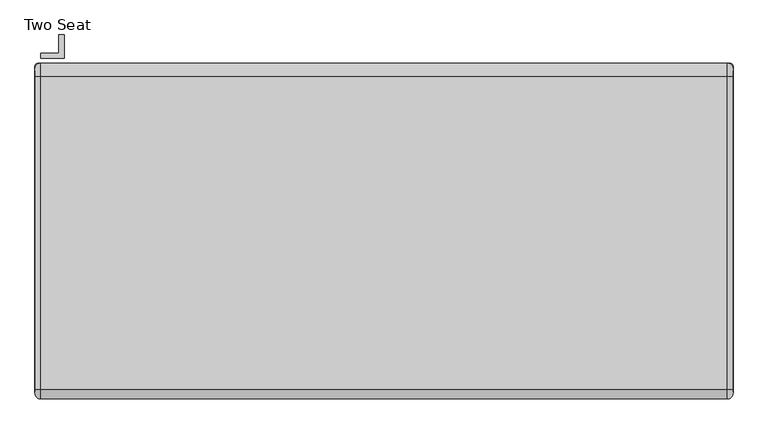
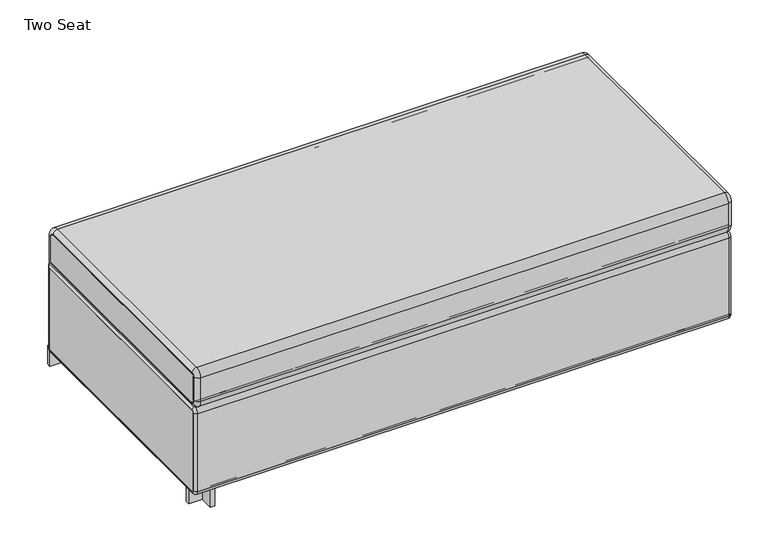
"""IFC4 building model written with IfcOpenShell, lengths in millimetres: furniture geometry, Steelcase Coalesse - Evaneau - Seating - Sofa : Two Seat."""

from ifc_helpers import new_model, si_unit, point, frame, frame_2d, origin, origin_with_axes, place, context, project, spatial, polyline, circle_curve, ellipse_curve, trimmed, segment, composite_curve, outline, extrude, source, transform, mapped, element, save
from ifc_brep_helpers import plane_surface, cylinder_surface, revolved_surface, advanced_brep


def two_seat_8f21ff1d(model_context):
    return source(origin(), model_context, "Body", "SolidModel", [
        extrude(outline(polyline([(-1364.2726275, 960.681058), (-1415.413692, 960.681058), (-1415.413692, 972.4828812), (-1376.0742328, 972.4828812), (-1376.0742328, 1012.1709384), (-1364.2726275, 1012.1709384), (-1364.2726275, 960.681058)])), origin_with_axes(), (0.0, 0.0, 1.0), 56.333748),
        extrude(outline(polyline([(-1364.2726275, 288.1862243), (-1364.2726275, 236.6963439), (-1376.0742328, 236.6963439), (-1376.0742328, 276.3844011), (-1415.413692, 276.3844011), (-1415.413692, 288.1862243), (-1364.2726275, 288.1862243)])), origin_with_axes(), (0.0, 0.0, 1.0), 56.333748),
        advanced_brep(
        [(93.002078, 221.439472, 71.8912426), (93.002078, 235.3471838, 57.9835308), (100.622078, 235.3471838, 65.6035308), (100.622078, 229.059472, 71.8912426), (-1420.8056675, 221.439472, 71.8912426), (-1420.8056675, 235.3471838, 57.9835308), (-1428.457922, 229.0917265, 71.8912426), (-1428.457922, 235.3471838, 65.6357853), (100.622078, 230.2671838, 71.8912426), (100.622078, 235.3471838, 66.8112426), (-1428.457922, 235.3471838, 66.8112426), (-1428.457922, 230.2671838, 71.8912426), (100.622078, 229.059472, 306.7299722), (93.002078, 221.439472, 306.7299722), (-1420.8056675, 221.439472, 306.7299722), (-1428.457922, 229.0917265, 306.7299722), (-1428.457922, 230.2671838, 306.7299722), (100.622078, 230.2671838, 306.7299722), (93.002078, 235.3471838, 320.637684), (100.622078, 235.3471838, 313.017684), (-1420.8056675, 235.3471838, 320.637684), (-1428.457922, 235.3471838, 312.9854295), (100.622078, 235.3471838, 311.8099722), (-1428.457922, 235.3471838, 311.8099722), (100.622078, 942.4384655, 313.017684), (100.622078, 936.1507537, 65.6035308), (100.622078, 942.4384655, 71.8912426), (100.622078, 941.2307537, 311.8099722), (100.622078, 941.2307537, 71.8912426), (100.622078, 936.1507537, 66.8112426), (93.002078, 950.0584655, 320.637684), (-1420.8056675, 950.0584655, 320.637684), (-1428.457922, 942.406211, 312.9854295), (-1428.457922, 942.406211, 71.8912426), (-1428.457922, 936.1507537, 65.6357853), (-1428.457922, 941.2307537, 311.8099722), (-1428.457922, 936.1507537, 66.8112426), (-1428.457922, 941.2307537, 71.8912426), (93.002078, 950.0584655, 71.8912426), (-1420.8056675, 950.0584655, 71.8912426), (93.002078, 936.1507537, 57.9835308), (-1420.8056675, 936.1507537, 57.9835308)],
        [
            (0, 1, circle_curve(frame((93.002078, 235.3471838, 71.8912426), z_axis=(1.0, 0.0, 0.0), x_axis=(0.0, 0.0, -1.0)), 13.9077117)),
            (1, 2, circle_curve(frame((93.002078, 235.3471838, 65.6035308), z_axis=(0.0, -1.0, 0.0), x_axis=(0.0, 0.0, 1.0)), 7.62)),
            (2, 3, circle_curve(frame((100.622078, 235.3471838, 71.8912426), z_axis=(-1.0, 0.0, 0.0), x_axis=(0.0, 0.0, -1.0)), 6.2877117)),
            (3, 0, circle_curve(frame((93.002078, 229.059472, 71.8912426), z_axis=(0.0, 0.0, -1.0), x_axis=(0.0, 1.0, 0.0)), 7.62)),
            (4, 5, circle_curve(frame((-1420.8056675, 235.3471838, 71.8912426), z_axis=(1.0, 0.0, 0.0), x_axis=(0.0, 0.0, -1.0)), 13.9077117)),
            (5, 1),
            (0, 4),
            (6, 7, circle_curve(frame((-1428.457922, 235.3471838, 71.8912426), z_axis=(1.0, 0.0, 0.0), x_axis=(0.0, 0.0, -1.0)), 6.2554573)),
            (7, 5, circle_curve(frame((-1420.8056675, 235.3471838, 65.6357853), z_axis=(0.0, -1.0, 0.0), x_axis=(0.0, 0.0, 1.0)), 7.6522545)),
            (4, 6, circle_curve(frame((-1420.8056675, 229.0917265, 71.8912426), z_axis=(0.0, 0.0, -1.0), x_axis=(0.0, 1.0, 0.0)), 7.6522545)),
            (8, 9, circle_curve(frame((100.622078, 235.3471838, 71.8912426), z_axis=(1.0, 0.0, 0.0), x_axis=(0.0, 0.0, -1.0)), 5.08)),
            (9, 10),
            (10, 11, circle_curve(frame((-1428.457922, 235.3471838, 71.8912426), z_axis=(-1.0, 0.0, 0.0), x_axis=(0.0, 0.0, -1.0)), 5.08)),
            (11, 8),
            (3, 12),
            (12, 13, circle_curve(frame((93.002078, 229.059472, 306.7299722), z_axis=(0.0, 0.0, -1.0), x_axis=(0.0, 1.0, 0.0)), 7.62)),
            (13, 0),
            (13, 14),
            (14, 4),
            (14, 15, circle_curve(frame((-1420.8056675, 229.0917265, 306.7299722), z_axis=(0.0, 0.0, -1.0), x_axis=(0.0, 1.0, 0.0)), 7.6522545)),
            (15, 6),
            (11, 16),
            (16, 17),
            (17, 8),
            (18, 13, circle_curve(frame((93.002078, 235.3471838, 306.7299722), z_axis=(1.0, 0.0, 0.0), x_axis=(0.0, -1.0, 0.0)), 13.9077117)),
            (12, 19, circle_curve(frame((100.622078, 235.3471838, 306.7299722), z_axis=(-1.0, 0.0, 0.0), x_axis=(0.0, -1.0, 0.0)), 6.2877117)),
            (19, 18, circle_curve(frame((93.002078, 235.3471838, 313.017684), z_axis=(0.0, -1.0, 0.0), x_axis=(0.0, 0.0, -1.0)), 7.62)),
            (20, 14, circle_curve(frame((-1420.8056675, 235.3471838, 306.7299722), z_axis=(1.0, 0.0, 0.0), x_axis=(0.0, -1.0, 0.0)), 13.9077117)),
            (18, 20),
            (21, 15, circle_curve(frame((-1428.457922, 235.3471838, 306.7299722), z_axis=(1.0, 0.0, 0.0), x_axis=(0.0, -1.0, 0.0)), 6.2554573)),
            (20, 21, circle_curve(frame((-1420.8056675, 235.3471838, 312.9854295), z_axis=(0.0, -1.0, 0.0), x_axis=(0.0, 0.0, -1.0)), 7.6522545)),
            (22, 17, circle_curve(frame((100.622078, 235.3471838, 306.7299722), z_axis=(1.0, 0.0, 0.0), x_axis=(0.0, -1.0, 0.0)), 5.08)),
            (16, 23, circle_curve(frame((-1428.457922, 235.3471838, 306.7299722), z_axis=(-1.0, 0.0, 0.0), x_axis=(0.0, -1.0, 0.0)), 5.08)),
            (23, 22),
            (24, 19),
            (2, 25),
            (25, 26, circle_curve(frame((100.622078, 936.1507537, 71.8912426), z_axis=(1.0, 0.0, 0.0), x_axis=(0.0, 1.0, 0.0)), 6.2877117)),
            (26, 24),
            (22, 27),
            (27, 28),
            (28, 29, circle_curve(frame((100.622078, 936.1507537, 71.8912426), z_axis=(-1.0, 0.0, 0.0), x_axis=(0.0, 1.0, 0.0)), 5.08)),
            (29, 9),
            (24, 30, ellipse_curve(frame((93.002078, 942.4384655, 313.017684), z_axis=(0.0, -0.7071067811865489, 0.707106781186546), x_axis=(0.0, -0.7071067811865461, -0.7071067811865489)), 10.7763073, 7.62)),
            (30, 18),
            (30, 31),
            (31, 20),
            (31, 32, ellipse_curve(frame((-1420.8056675, 942.406211, 312.9854295), z_axis=(0.0, -0.7071067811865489, 0.707106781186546), x_axis=(0.0, -0.7071067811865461, -0.7071067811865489)), 10.8219221, 7.6522545)),
            (32, 21),
            (32, 33),
            (33, 34, circle_curve(frame((-1428.457922, 936.1507537, 71.8912426), z_axis=(-1.0, 0.0, 0.0), x_axis=(0.0, 1.0, 0.0)), 6.2554573)),
            (34, 7),
            (35, 23),
            (10, 36),
            (36, 37, circle_curve(frame((-1428.457922, 936.1507537, 71.8912426), z_axis=(1.0, 0.0, 0.0), x_axis=(0.0, 1.0, 0.0)), 5.08)),
            (37, 35),
            (35, 27),
            (26, 38, circle_curve(frame((93.002078, 942.4384655, 71.8912426), z_axis=(0.0, 0.0, 1.0), x_axis=(0.0, -1.0, 0.0)), 7.62)),
            (38, 30),
            (38, 39),
            (39, 31),
            (39, 33, circle_curve(frame((-1420.8056675, 942.406211, 71.8912426), z_axis=(0.0, 0.0, 1.0), x_axis=(0.0, -1.0, 0.0)), 7.6522545)),
            (37, 28),
            (40, 38, circle_curve(frame((93.002078, 936.1507537, 71.8912426), z_axis=(1.0, 0.0, 0.0), x_axis=(0.0, 1.0, 0.0)), 13.9077117)),
            (25, 40, circle_curve(frame((93.002078, 936.1507537, 65.6035308), z_axis=(0.0, 1.0, 0.0), x_axis=(0.0, 0.0, 1.0)), 7.62)),
            (41, 39, circle_curve(frame((-1420.8056675, 936.1507537, 71.8912426), z_axis=(1.0, 0.0, 0.0), x_axis=(0.0, 1.0, 0.0)), 13.9077117)),
            (40, 41),
            (41, 34, circle_curve(frame((-1420.8056675, 936.1507537, 65.6357853), z_axis=(0.0, 1.0, 0.0), x_axis=(0.0, 0.0, 1.0)), 7.6522545)),
            (36, 29),
            (1, 40),
            (5, 41),
        ],
        [
            revolved_surface(trimmed(ellipse_curve(frame((93.002078, 235.3471838, 65.6035308), z_axis=(0.0, 1.0, 0.0), x_axis=(0.0, 0.0, 1.0)), 7.62, 7.62), [point((100.622078, 235.3471838, 65.6035308))], [point((93.002078, 235.3471838, 57.9835308))], True, "CARTESIAN"), (-663.917922, 235.3471838, 71.8912426), (-1.0, 0.0, 0.0)),
            cylinder_surface(frame((-663.917922, 235.3471838, 71.8912426), z_axis=(-1.0, 0.0, 0.0), x_axis=(0.0, 0.0, -1.0)), 13.9077117),
            revolved_surface(trimmed(ellipse_curve(frame((-1420.8056675, 235.3471838, 65.6357853), z_axis=(0.0, 1.0, 0.0), x_axis=(0.0, 0.0, 1.0)), 7.6522545, 7.6522545), [point((-1420.8056675, 235.3471838, 57.9835308))], [point((-1428.457922, 235.3471838, 65.6357853))], True, "CARTESIAN"), (-663.917922, 235.3471838, 71.8912426), (-1.0, 0.0, 0.0)),
            revolved_surface(polyline([(-1428.457922, 235.3471838, 66.8112426), (100.62207799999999, 235.3471838, 66.8112426)]), (-663.917922, 235.3471838, 71.8912426), (-1.0, 0.0, 0.0)),
            cylinder_surface(frame((93.002078, 229.059472, 71.8912426), z_axis=(0.0, 0.0, -1.0), x_axis=(0.0, 1.0, 0.0)), 7.62),
            plane_surface(frame((93.002078, 221.439472, 71.8912426), z_axis=(0.0, -1.0, 0.0), x_axis=(0.0, 0.0, 1.0))),
            cylinder_surface(frame((-1420.8056675, 229.0917265, 71.8912426), z_axis=(0.0, 0.0, -1.0), x_axis=(0.0, 1.0, 0.0)), 7.6522545),
            plane_surface(frame((-1428.457922, 230.2671838, 71.8912426), z_axis=(0.0, 1.0, 0.0), x_axis=(0.0, 0.0, 1.0))),
            revolved_surface(trimmed(ellipse_curve(frame((93.002078, 229.059472, 306.7299722), z_axis=(0.0, 0.0, -1.0), x_axis=(0.0, 1.0, 0.0)), 7.62, 7.62), [point((100.622078, 229.059472, 306.7299722))], [point((93.002078, 221.439472, 306.7299722))], True, "CARTESIAN"), (-663.917922, 235.3471838, 306.7299722), (-1.0, 0.0, 0.0)),
            cylinder_surface(frame((-663.917922, 235.3471838, 306.7299722), z_axis=(-1.0, 0.0, 0.0), x_axis=(0.0, -1.0, 0.0)), 13.9077117),
            revolved_surface(trimmed(ellipse_curve(frame((-1420.8056675, 229.0917265, 306.7299722), z_axis=(0.0, 0.0, -1.0), x_axis=(0.0, 1.0, 0.0)), 7.6522545, 7.6522545), [point((-1420.8056675, 221.439472, 306.7299722))], [point((-1428.457922, 229.0917265, 306.7299722))], True, "CARTESIAN"), (-663.917922, 235.3471838, 306.7299722), (-1.0, 0.0, 0.0)),
            revolved_surface(polyline([(-1428.457922, 230.2671838, 306.7299722), (100.62207799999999, 230.2671838, 306.7299722)]), (-663.917922, 235.3471838, 306.7299722), (-1.0, 0.0, 0.0)),
            plane_surface(frame((100.622078, 235.3471838, 311.8099722), z_axis=(1.0, 0.0, 0.0), x_axis=(0.0, 1.0, 0.0))),
            cylinder_surface(frame((93.002078, 235.3471838, 313.017684), z_axis=(0.0, -1.0, 0.0), x_axis=(0.0, 0.0, -1.0)), 7.62),
            plane_surface(frame((93.002078, 235.3471838, 320.637684), z_axis=(0.0, 0.0, 1.0), x_axis=(0.0, 1.0, 0.0))),
            cylinder_surface(frame((-1420.8056675, 235.3471838, 312.9854295), z_axis=(0.0, -1.0, 0.0), x_axis=(0.0, 0.0, -1.0)), 7.6522545),
            plane_surface(frame((-1428.457922, 235.3471838, 312.9854295), z_axis=(-1.0, 0.0, 0.0), x_axis=(0.0, 1.0, 0.0))),
            plane_surface(frame((-1428.457922, 235.3471838, 311.8099722), z_axis=(0.0, 0.0, -1.0), x_axis=(0.0, 1.0, 0.0))),
            cylinder_surface(frame((93.002078, 942.4384655, 311.8099722), z_axis=(0.0, 0.0, 1.0), x_axis=(0.0, -1.0, 0.0)), 7.62),
            plane_surface(frame((93.002078, 950.0584655, 320.637684), z_axis=(0.0, 1.0, 0.0), x_axis=(0.0, 0.0, -1.0))),
            cylinder_surface(frame((-1420.8056675, 942.406211, 311.8099722), z_axis=(0.0, 0.0, 1.0), x_axis=(0.0, -1.0, 0.0)), 7.6522545),
            plane_surface(frame((-1428.457922, 941.2307537, 311.8099722), z_axis=(0.0, -1.0, 0.0), x_axis=(0.0, 0.0, -1.0))),
            revolved_surface(trimmed(ellipse_curve(frame((93.002078, 942.4384655, 71.8912426), z_axis=(0.0, 0.0, 1.0), x_axis=(0.0, -1.0, 0.0)), 7.62, 7.62), [point((100.622078, 942.4384655, 71.8912426))], [point((93.002078, 950.0584655, 71.8912426))], True, "CARTESIAN"), (-663.917922, 936.1507537, 71.8912426), (-1.0, 0.0, 0.0)),
            cylinder_surface(frame((-663.917922, 936.1507537, 71.8912426), z_axis=(-1.0, 0.0, 0.0), x_axis=(0.0, 1.0, 0.0)), 13.9077117),
            revolved_surface(trimmed(ellipse_curve(frame((-1420.8056675, 942.406211, 71.8912426), z_axis=(0.0, 0.0, 1.0), x_axis=(0.0, -1.0, 0.0)), 7.6522545, 7.6522545), [point((-1420.8056675, 950.0584655, 71.8912426))], [point((-1428.457922, 942.406211, 71.8912426))], True, "CARTESIAN"), (-663.917922, 936.1507537, 71.8912426), (-1.0, 0.0, 0.0)),
            revolved_surface(polyline([(-1428.457922, 941.2307537, 71.8912426), (100.62207799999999, 941.2307537, 71.8912426)]), (-663.917922, 936.1507537, 71.8912426), (-1.0, 0.0, 0.0)),
            cylinder_surface(frame((93.002078, 936.1507537, 65.6035308), z_axis=(0.0, 1.0, 0.0), x_axis=(0.0, 0.0, 1.0)), 7.62),
            plane_surface(frame((93.002078, 936.1507537, 57.9835308), z_axis=(0.0, 0.0, -1.0), x_axis=(0.0, -1.0, 0.0))),
            cylinder_surface(frame((-1420.8056675, 936.1507537, 65.6357853), z_axis=(0.0, 1.0, 0.0), x_axis=(0.0, 0.0, 1.0)), 7.6522545),
            plane_surface(frame((-1428.457922, 936.1507537, 66.8112426), z_axis=(0.0, 0.0, 1.0), x_axis=(0.0, -1.0, 0.0))),
        ],
        [
            (0, [[1, 2, 3, 4]]),
            (1, [[5, 6, -1, 7]]),
            (2, [[8, 9, -5, 10]]),
            (3, [[11, 12, 13, 14]]),
            (4, [[-4, 15, 16, 17]]),
            (5, [[-7, -17, 18, 19]]),
            (6, [[-10, -19, 20, 21]]),
            (7, [[-14, 22, 23, 24]]),
            (8, [[25, -16, 26, 27]]),
            (9, [[28, -18, -25, 29]]),
            (10, [[30, -20, -28, 31]]),
            (11, [[32, -23, 33, 34]]),
            (12, [[35, -26, -15, -3, 36, 37, 38], [-24, -32, 39, 40, 41, 42, -11]]),
            (13, [[-27, -35, 43, 44]]),
            (14, [[-29, -44, 45, 46]]),
            (15, [[-31, -46, 47, 48]]),
            (16, [[-21, -30, -48, 49, 50, 51, -8], [52, -33, -22, -13, 53, 54, 55]]),
            (17, [[-34, -52, 56, -39]]),
            (18, [[-43, -38, 57, 58]]),
            (19, [[-45, -58, 59, 60]]),
            (20, [[-47, -60, 61, -49]]),
            (21, [[-56, -55, 62, -40]]),
            (22, [[63, -57, -37, 64]]),
            (23, [[65, -59, -63, 66]]),
            (24, [[-50, -61, -65, 67]]),
            (25, [[-41, -62, -54, 68]]),
            (26, [[-64, -36, -2, 69]]),
            (27, [[-66, -69, -6, 70]]),
            (28, [[-67, -70, -9, -51]]),
            (29, [[-68, -53, -12, -42]]),
        ],
    ),
        advanced_brep(
        [(100.622078, 934.8184437, 409.1587342), (100.622078, 922.1184437, 421.8587342), (-1428.457922, 922.1184437, 421.8587342), (-1428.457922, 934.8184437, 409.1587342), (87.922078, 950.0584655, 409.1587342), (87.922078, 922.1184437, 437.098756), (100.622078, 922.1184437, 424.398756), (100.622078, 937.3584655, 409.1587342), (-1415.757922, 950.0584655, 409.1587342), (-1415.757922, 922.1184437, 437.098756), (-1428.457922, 937.3584655, 409.1587342), (-1428.457922, 922.1184437, 424.398756), (-1428.457922, 934.8184437, 333.337684), (100.622078, 934.8184437, 333.337684), (100.622078, 937.3584655, 330.7976622), (87.922078, 950.0584655, 318.0976622), (-1415.757922, 950.0584655, 318.0976622), (-1428.457922, 937.3584655, 330.7976622), (-1428.457922, 242.9671838, 330.7976622), (-1428.457922, 232.8871832, 334.6073799), (-1428.457922, 227.727162, 346.037684), (-1428.457922, 227.727162, 416.7787342), (-1428.457922, 235.3471838, 424.398756), (-1428.457922, 242.9671838, 333.337684), (-1428.457922, 235.3471838, 421.8587342), (-1428.457922, 230.2671838, 416.7787342), (-1428.457922, 230.2671838, 346.037684), (-1428.457922, 234.5671953, 336.5124442), (100.622078, 242.9671838, 333.337684), (100.622078, 242.9671838, 330.7976622), (100.622078, 235.3471838, 424.398756), (100.622078, 227.727162, 416.7787342), (100.622078, 227.727162, 346.037684), (100.622078, 232.8871832, 334.6073799), (100.622078, 234.5671953, 336.5124442), (100.622078, 230.2671838, 346.037684), (100.622078, 230.2671838, 416.7787342), (100.622078, 235.3471838, 421.8587342), (87.922078, 242.9671838, 318.0976622), (-1415.757922, 242.9671838, 318.0976622), (87.922078, 224.4871947, 325.0821401), (-1415.757922, 224.4871947, 325.0821401), (87.922078, 215.027162, 346.037684), (-1415.757922, 215.027162, 346.037684), (87.922078, 215.027162, 416.7787342), (-1415.757922, 215.027162, 416.7787342), (87.922078, 235.3471838, 437.098756), (-1415.757922, 235.3471838, 437.098756)],
        [
            (0, 1, circle_curve(frame((100.622078, 922.1184437, 409.1587342), z_axis=(1.0, 0.0, 0.0), x_axis=(0.0, 0.0, 1.0)), 12.7)),
            (1, 2),
            (2, 3, circle_curve(frame((-1428.457922, 922.1184437, 409.1587342), z_axis=(-1.0, 0.0, 0.0), x_axis=(0.0, 0.0, 1.0)), 12.7)),
            (3, 0),
            (4, 5, circle_curve(frame((87.922078, 922.1184437, 409.1587342), z_axis=(1.0, 0.0, 0.0), x_axis=(0.0, 0.0, 1.0)), 27.9400218)),
            (5, 6, circle_curve(frame((87.922078, 922.1184437, 424.398756), z_axis=(0.0, 1.0, 0.0), x_axis=(0.0, 0.0, -1.0)), 12.7)),
            (6, 7, circle_curve(frame((100.622078, 922.1184437, 409.1587342), z_axis=(-1.0, 0.0, 0.0), x_axis=(0.0, 0.0, 1.0)), 15.2400218)),
            (7, 4, circle_curve(frame((87.922078, 937.3584655, 409.1587342), z_axis=(0.0, 0.0, 1.0), x_axis=(0.0, -1.0, 0.0)), 12.7)),
            (8, 9, circle_curve(frame((-1415.757922, 922.1184437, 409.1587342), z_axis=(1.0, 0.0, 0.0), x_axis=(0.0, 0.0, 1.0)), 27.9400218)),
            (9, 5),
            (4, 8),
            (10, 11, circle_curve(frame((-1428.457922, 922.1184437, 409.1587342), z_axis=(1.0, 0.0, 0.0), x_axis=(0.0, 0.0, 1.0)), 15.2400218)),
            (11, 9, circle_curve(frame((-1415.757922, 922.1184437, 424.398756), z_axis=(0.0, 1.0, 0.0), x_axis=(0.0, 0.0, -1.0)), 12.7)),
            (8, 10, circle_curve(frame((-1415.757922, 937.3584655, 409.1587342), z_axis=(0.0, 0.0, 1.0), x_axis=(0.0, -1.0, 0.0)), 12.7)),
            (3, 12),
            (12, 13),
            (13, 0),
            (7, 14),
            (14, 15, ellipse_curve(frame((87.922078, 937.3584655, 330.7976622), z_axis=(0.0, 0.7071067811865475, 0.7071067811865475), x_axis=(0.0, -0.7071067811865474, 0.7071067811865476)), 17.9605122, 12.7)),
            (15, 4),
            (15, 16),
            (16, 8),
            (16, 17, ellipse_curve(frame((-1415.757922, 937.3584655, 330.7976622), z_axis=(0.0, 0.7071067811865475, 0.7071067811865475), x_axis=(0.0, -0.7071067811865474, 0.7071067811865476)), 17.9605122, 12.7)),
            (17, 10),
            (17, 18),
            (18, 19, circle_curve(frame((-1428.457922, 242.9671838, 346.037684), z_axis=(-1.0, 0.0, 0.0), x_axis=(0.0, 0.0, -1.0)), 15.2400218)),
            (19, 20, circle_curve(frame((-1428.457922, 242.9671838, 346.037684), z_axis=(-1.0, 0.0, 0.0), x_axis=(0.0, -0.6614164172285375, -0.7500188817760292)), 15.2400218)),
            (20, 21),
            (21, 22, circle_curve(frame((-1428.457922, 235.3471838, 416.7787342), z_axis=(-1.0, 0.0, 0.0), x_axis=(0.0, -1.0, 0.0)), 7.6200218)),
            (22, 11),
            (23, 12),
            (2, 24),
            (24, 25, circle_curve(frame((-1428.457922, 235.3471838, 416.7787342), z_axis=(1.0, 0.0, 0.0), x_axis=(0.0, -1.0, 0.0)), 5.08)),
            (25, 26),
            (26, 27, circle_curve(frame((-1428.457922, 242.9671838, 346.037684), z_axis=(1.0, 0.0, 0.0), x_axis=(0.0, -0.6614164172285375, -0.7500188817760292)), 12.7)),
            (27, 23, circle_curve(frame((-1428.457922, 242.9671838, 346.037684), z_axis=(1.0, 0.0, 0.0), x_axis=(0.0, 0.0, -1.0)), 12.7)),
            (23, 28),
            (28, 13),
            (29, 14),
            (6, 30),
            (30, 31, circle_curve(frame((100.622078, 235.3471838, 416.7787342), z_axis=(1.0, 0.0, 0.0), x_axis=(0.0, -1.0, 0.0)), 7.6200218)),
            (31, 32),
            (32, 33, circle_curve(frame((100.622078, 242.9671838, 346.037684), z_axis=(1.0, 0.0, 0.0), x_axis=(0.0, -0.6614164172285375, -0.7500188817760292)), 15.2400218)),
            (33, 29, circle_curve(frame((100.622078, 242.9671838, 346.037684), z_axis=(1.0, 0.0, 0.0), x_axis=(0.0, 0.0, -1.0)), 15.2400218)),
            (28, 34, circle_curve(frame((100.622078, 242.9671838, 346.037684), z_axis=(-1.0, 0.0, 0.0), x_axis=(0.0, 0.0, -1.0)), 12.7)),
            (34, 35, circle_curve(frame((100.622078, 242.9671838, 346.037684), z_axis=(-1.0, 0.0, 0.0), x_axis=(0.0, -0.6614164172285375, -0.7500188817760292)), 12.7)),
            (35, 36),
            (36, 37, circle_curve(frame((100.622078, 235.3471838, 416.7787342), z_axis=(-1.0, 0.0, 0.0), x_axis=(0.0, -1.0, 0.0)), 5.08)),
            (37, 1),
            (29, 38, circle_curve(frame((87.922078, 242.9671838, 330.7976622), z_axis=(0.0, 1.0, 0.0), x_axis=(0.0, 0.0, 1.0)), 12.7)),
            (38, 15),
            (38, 39),
            (39, 16),
            (39, 18, circle_curve(frame((-1415.757922, 242.9671838, 330.7976622), z_axis=(0.0, 1.0, 0.0), x_axis=(0.0, 0.0, 1.0)), 12.7)),
            (27, 34),
            (40, 38, circle_curve(frame((87.922078, 242.9671838, 346.037684), z_axis=(1.0, 0.0, 0.0), x_axis=(0.0, 0.0, -1.0)), 27.9400218)),
            (33, 40, circle_curve(frame((87.922078, 232.8871832, 334.6073799), z_axis=(0.0, 0.7500188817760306, -0.6614164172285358), x_axis=(0.0, 0.6614164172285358, 0.7500188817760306)), 12.7)),
            (41, 39, circle_curve(frame((-1415.757922, 242.9671838, 346.037684), z_axis=(1.0, 0.0, 0.0), x_axis=(0.0, 0.0, -1.0)), 27.9400218)),
            (40, 41),
            (41, 19, circle_curve(frame((-1415.757922, 232.8871832, 334.6073799), z_axis=(0.0, 0.7500188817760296, -0.6614164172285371), x_axis=(0.0, 0.6614164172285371, 0.7500188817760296)), 12.7)),
            (26, 35),
            (42, 40, circle_curve(frame((87.922078, 242.9671838, 346.037684), z_axis=(1.0, 0.0, 0.0), x_axis=(0.0, -0.6614164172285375, -0.7500188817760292)), 27.9400218)),
            (32, 42, circle_curve(frame((87.922078, 227.727162, 346.037684), z_axis=(0.0, 0.0, -1.0), x_axis=(0.0, 1.0, 0.0)), 12.7)),
            (43, 41, circle_curve(frame((-1415.757922, 242.9671838, 346.037684), z_axis=(1.0, 0.0, 0.0), x_axis=(0.0, -0.6614164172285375, -0.7500188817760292)), 27.9400218)),
            (42, 43),
            (43, 20, circle_curve(frame((-1415.757922, 227.727162, 346.037684), z_axis=(0.0, 0.0, -1.0), x_axis=(0.0, 1.0, 0.0)), 12.7)),
            (25, 36),
            (31, 44, circle_curve(frame((87.922078, 227.727162, 416.7787342), z_axis=(0.0, 0.0, -1.0), x_axis=(0.0, 1.0, 0.0)), 12.7)),
            (44, 42),
            (44, 45),
            (45, 43),
            (45, 21, circle_curve(frame((-1415.757922, 227.727162, 416.7787342), z_axis=(0.0, 0.0, -1.0), x_axis=(0.0, 1.0, 0.0)), 12.7)),
            (24, 37),
            (46, 44, circle_curve(frame((87.922078, 235.3471838, 416.7787342), z_axis=(1.0, 0.0, 0.0), x_axis=(0.0, -1.0, 0.0)), 20.3200218)),
            (30, 46, circle_curve(frame((87.922078, 235.3471838, 424.398756), z_axis=(0.0, -1.0, 0.0), x_axis=(0.0, 0.0, -1.0)), 12.7)),
            (47, 45, circle_curve(frame((-1415.757922, 235.3471838, 416.7787342), z_axis=(1.0, 0.0, 0.0), x_axis=(0.0, -1.0, 0.0)), 20.3200218)),
            (46, 47),
            (47, 22, circle_curve(frame((-1415.757922, 235.3471838, 424.398756), z_axis=(0.0, -1.0, 0.0), x_axis=(0.0, 0.0, -1.0)), 12.7)),
            (5, 46),
            (9, 47),
        ],
        [
            revolved_surface(polyline([(-1428.457922, 922.1184437, 421.8587342), (100.62207799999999, 922.1184437, 421.8587342)]), (-663.917922, 922.1184437, 409.1587342), (-1.0, 0.0, 0.0)),
            revolved_surface(trimmed(ellipse_curve(frame((87.922078, 922.1184437, 424.398756), z_axis=(0.0, -1.0, 0.0), x_axis=(0.0, 0.0, -1.0)), 12.7, 12.7), [point((100.622078, 922.1184437, 424.398756))], [point((87.922078, 922.1184437, 437.098756))], True, "CARTESIAN"), (-663.917922, 922.1184437, 409.1587342), (-1.0, 0.0, 0.0)),
            cylinder_surface(frame((-663.917922, 922.1184437, 409.1587342), z_axis=(-1.0, 0.0, 0.0), x_axis=(0.0, 0.0, 1.0)), 27.9400218),
            revolved_surface(trimmed(ellipse_curve(frame((-1415.757922, 922.1184437, 424.398756), z_axis=(0.0, -1.0, 0.0), x_axis=(0.0, 0.0, -1.0)), 12.7, 12.7), [point((-1415.757922, 922.1184437, 437.098756))], [point((-1428.457922, 922.1184437, 424.398756))], True, "CARTESIAN"), (-663.917922, 922.1184437, 409.1587342), (-1.0, 0.0, 0.0)),
            plane_surface(frame((-1428.457922, 934.8184437, 409.1587342), z_axis=(0.0, -1.0, 0.0), x_axis=(0.0, 0.0, -1.0))),
            cylinder_surface(frame((87.922078, 937.3584655, 409.1587342), z_axis=(0.0, 0.0, 1.0), x_axis=(0.0, -1.0, 0.0)), 12.7),
            plane_surface(frame((87.922078, 950.0584655, 409.1587342), z_axis=(0.0, 1.0, 0.0), x_axis=(0.0, 0.0, -1.0))),
            cylinder_surface(frame((-1415.757922, 937.3584655, 409.1587342), z_axis=(0.0, 0.0, 1.0), x_axis=(0.0, -1.0, 0.0)), 12.7),
            plane_surface(frame((-1428.457922, 937.3584655, 330.7976622), z_axis=(-1.0, 0.0, 0.0), x_axis=(0.0, -1.0, 0.0))),
            plane_surface(frame((-1428.457922, 934.8184437, 333.337684), z_axis=(0.0, 0.0, 1.0), x_axis=(0.0, -1.0, 0.0))),
            plane_surface(frame((100.622078, 934.8184437, 333.337684), z_axis=(1.0, 0.0, 0.0), x_axis=(0.0, -1.0, 0.0))),
            cylinder_surface(frame((87.922078, 934.8184437, 330.7976622), z_axis=(0.0, 1.0, 0.0), x_axis=(0.0, 0.0, 1.0)), 12.7),
            plane_surface(frame((87.922078, 950.0584655, 318.0976622), z_axis=(0.0, 0.0, -1.0), x_axis=(0.0, -1.0, 0.0))),
            cylinder_surface(frame((-1415.757922, 934.8184437, 330.7976622), z_axis=(0.0, 1.0, 0.0), x_axis=(0.0, 0.0, 1.0)), 12.7),
            revolved_surface(polyline([(-1428.457922, 242.9671838, 333.337684), (100.62207799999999, 242.9671838, 333.337684)]), (-663.917922, 242.9671838, 346.037684), (-1.0, 0.0, 0.0)),
            revolved_surface(trimmed(ellipse_curve(frame((87.922078, 242.9671838, 330.7976622), z_axis=(0.0, 1.0, 0.0), x_axis=(0.0, 0.0, 1.0)), 12.7, 12.7), [point((100.622078, 242.9671838, 330.7976622))], [point((87.922078, 242.9671838, 318.0976622))], True, "CARTESIAN"), (-663.917922, 242.9671838, 346.037684), (-1.0, 0.0, 0.0)),
            cylinder_surface(frame((-663.917922, 242.9671838, 346.037684), z_axis=(-1.0, 0.0, 0.0), x_axis=(0.0, 0.0, -1.0)), 27.9400218),
            revolved_surface(trimmed(ellipse_curve(frame((-1415.757922, 242.9671838, 330.7976622), z_axis=(0.0, 1.0, 0.0), x_axis=(0.0, 0.0, 1.0)), 12.7, 12.7), [point((-1415.757922, 242.9671838, 318.0976622))], [point((-1428.457922, 242.9671838, 330.7976622))], True, "CARTESIAN"), (-663.917922, 242.9671838, 346.037684), (-1.0, 0.0, 0.0)),
            revolved_surface(polyline([(-1428.457922, 234.56719530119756, 336.51244420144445), (100.62207799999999, 234.56719530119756, 336.51244420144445)]), (-663.917922, 242.9671838, 346.037684), (-1.0, 0.0, 0.0)),
            revolved_surface(trimmed(ellipse_curve(frame((87.922078, 232.8871832, 334.6073799), z_axis=(0.0, 0.750018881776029, -0.6614164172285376), x_axis=(0.0, 0.6614164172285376, 0.750018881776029)), 12.7, 12.7), [point((100.622078, 232.8871832, 334.6073799))], [point((87.922078, 224.4871947, 325.0821401))], True, "CARTESIAN"), (-663.917922, 242.9671838, 346.037684), (-1.0, 0.0, 0.0)),
            cylinder_surface(frame((-663.917922, 242.9671838, 346.037684), z_axis=(-1.0, 0.0, 0.0), x_axis=(0.0, -0.6614164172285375, -0.7500188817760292)), 27.9400218),
            revolved_surface(trimmed(ellipse_curve(frame((-1415.757922, 232.8871832, 334.6073799), z_axis=(0.0, 0.750018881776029, -0.6614164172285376), x_axis=(0.0, 0.6614164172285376, 0.750018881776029)), 12.7, 12.7), [point((-1415.757922, 224.4871947, 325.0821401))], [point((-1428.457922, 232.8871832, 334.6073799))], True, "CARTESIAN"), (-663.917922, 242.9671838, 346.037684), (-1.0, 0.0, 0.0)),
            plane_surface(frame((-1428.457922, 230.2671838, 346.037684), z_axis=(0.0, 1.0, 0.0), x_axis=(0.0, 0.0, 1.0))),
            cylinder_surface(frame((87.922078, 227.727162, 346.037684), z_axis=(0.0, 0.0, -1.0), x_axis=(0.0, 1.0, 0.0)), 12.7),
            plane_surface(frame((87.922078, 215.027162, 346.037684), z_axis=(0.0, -1.0, 0.0), x_axis=(0.0, 0.0, 1.0))),
            cylinder_surface(frame((-1415.757922, 227.727162, 346.037684), z_axis=(0.0, 0.0, -1.0), x_axis=(0.0, 1.0, 0.0)), 12.7),
            revolved_surface(polyline([(-1428.457922, 230.2671838, 416.7787342), (100.62207799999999, 230.2671838, 416.7787342)]), (-663.917922, 235.3471838, 416.7787342), (-1.0, 0.0, 0.0)),
            revolved_surface(trimmed(ellipse_curve(frame((87.922078, 227.727162, 416.7787342), z_axis=(0.0, 0.0, -1.0), x_axis=(0.0, 1.0, 0.0)), 12.7, 12.7), [point((100.622078, 227.727162, 416.7787342))], [point((87.922078, 215.027162, 416.7787342))], True, "CARTESIAN"), (-663.917922, 235.3471838, 416.7787342), (-1.0, 0.0, 0.0)),
            cylinder_surface(frame((-663.917922, 235.3471838, 416.7787342), z_axis=(-1.0, 0.0, 0.0), x_axis=(0.0, -1.0, 0.0)), 20.3200218),
            revolved_surface(trimmed(ellipse_curve(frame((-1415.757922, 227.727162, 416.7787342), z_axis=(0.0, 0.0, -1.0), x_axis=(0.0, 1.0, 0.0)), 12.7, 12.7), [point((-1415.757922, 215.027162, 416.7787342))], [point((-1428.457922, 227.727162, 416.7787342))], True, "CARTESIAN"), (-663.917922, 235.3471838, 416.7787342), (-1.0, 0.0, 0.0)),
            plane_surface(frame((-1428.457922, 235.3471838, 421.8587342), z_axis=(0.0, 0.0, -1.0), x_axis=(0.0, 1.0, 0.0))),
            cylinder_surface(frame((87.922078, 235.3471838, 424.398756), z_axis=(0.0, -1.0, 0.0), x_axis=(0.0, 0.0, -1.0)), 12.7),
            plane_surface(frame((87.922078, 235.3471838, 437.098756), z_axis=(0.0, 0.0, 1.0), x_axis=(0.0, 1.0, 0.0))),
            cylinder_surface(frame((-1415.757922, 235.3471838, 424.398756), z_axis=(0.0, -1.0, 0.0), x_axis=(0.0, 0.0, -1.0)), 12.7),
        ],
        [
            (0, [[1, 2, 3, 4]]),
            (1, [[5, 6, 7, 8]]),
            (2, [[9, 10, -5, 11]]),
            (3, [[12, 13, -9, 14]]),
            (4, [[-4, 15, 16, 17]]),
            (5, [[-8, 18, 19, 20]]),
            (6, [[-11, -20, 21, 22]]),
            (7, [[-14, -22, 23, 24]]),
            (8, [[25, 26, 27, 28, 29, 30, -12, -24], [31, -15, -3, 32, 33, 34, 35, 36]]),
            (9, [[-16, -31, 37, 38]]),
            (10, [[39, -18, -7, 40, 41, 42, 43, 44], [-38, 45, 46, 47, 48, 49, -1, -17]]),
            (11, [[-19, -39, 50, 51]]),
            (12, [[-21, -51, 52, 53]]),
            (13, [[-23, -53, 54, -25]]),
            (14, [[-45, -37, -36, 55]]),
            (15, [[56, -50, -44, 57]]),
            (16, [[58, -52, -56, 59]]),
            (17, [[-26, -54, -58, 60]]),
            (18, [[-46, -55, -35, 61]]),
            (19, [[62, -57, -43, 63]]),
            (20, [[64, -59, -62, 65]]),
            (21, [[-27, -60, -64, 66]]),
            (22, [[-61, -34, 67, -47]]),
            (23, [[-63, -42, 68, 69]]),
            (24, [[-65, -69, 70, 71]]),
            (25, [[-66, -71, 72, -28]]),
            (26, [[-48, -67, -33, 73]]),
            (27, [[74, -68, -41, 75]]),
            (28, [[76, -70, -74, 77]]),
            (29, [[-29, -72, -76, 78]]),
            (30, [[-73, -32, -2, -49]]),
            (31, [[-75, -40, -6, 79]]),
            (32, [[-77, -79, -10, 80]]),
            (33, [[-78, -80, -13, -30]]),
        ],
    ),
        extrude(outline(composite_curve([segment(trimmed(circle_curve(frame_2d((235.3471838, 306.7299722)), 5.08), [point((230.2671838, 306.7299722))], [point((235.3471838, 311.8099722))], False, "CARTESIAN"), True, "CONTINUOUS"), segment(polyline([(235.3471838, 311.8099722), (941.2307537, 311.8099722), (941.2307537, 71.8912426)]), True, "CONTINUOUS"), segment(trimmed(circle_curve(frame_2d((936.1507537, 71.8912426)), 5.08), [point((941.2307537, 71.8912426))], [point((936.1507537, 66.8112426))], False, "CARTESIAN"), True, "CONTINUOUS"), segment(polyline([(936.1507537, 66.8112426), (235.3471838, 66.8112426)]), True, "CONTINUOUS"), segment(trimmed(circle_curve(frame_2d((235.3471838, 71.8912426)), 5.08), [point((235.3471838, 66.8112426))], [point((230.2671838, 71.8912426))], False, "CARTESIAN"), True, "CONTINUOUS"), segment(polyline([(230.2671838, 71.8912426), (230.2671838, 306.7299722)]), True, "CONTINUOUS")], self_intersect=False)), frame((-1428.457922, 0.0, 0.0), z_axis=(1.0, 0.0, 0.0), x_axis=(0.0, 1.0, 0.0)), (0.0, 0.0, 1.0), 1529.08),
        extrude(outline(composite_curve([segment(polyline([(235.3471838, 421.8587342), (922.1184437, 421.8587342)]), True, "CONTINUOUS"), segment(trimmed(circle_curve(frame_2d((922.1184437, 409.1587342)), 12.7), [point((922.1184437, 421.8587342))], [point((934.8184437, 409.1587342))], False, "CARTESIAN"), True, "CONTINUOUS"), segment(polyline([(934.8184437, 409.1587342), (934.8184437, 333.337684), (242.9671838, 333.337684)]), True, "CONTINUOUS"), segment(trimmed(circle_curve(frame_2d((242.9671838, 346.037684)), 12.7), [point((242.9671838, 333.337684))], [point((230.2671838, 346.037684))], False, "CARTESIAN"), True, "CONTINUOUS"), segment(polyline([(230.2671838, 346.037684), (230.2671838, 416.7787342)]), True, "CONTINUOUS"), segment(trimmed(circle_curve(frame_2d((235.3471838, 416.7787342)), 5.08), [point((230.2671838, 416.7787342))], [point((235.3471838, 421.8587342))], False, "CARTESIAN"), True, "CONTINUOUS")], self_intersect=False)), frame((-1428.457922, 0.0, 0.0), z_axis=(1.0, 0.0, 0.0), x_axis=(0.0, 1.0, 0.0)), (0.0, 0.0, 1.0), 1529.08),
    ])


if __name__ == "__main__":
    model = new_model("IFC4")
    model_context = context("Model", 3, world=origin())
    ifc_project = project(units=[si_unit("LENGTHUNIT", "METRE", prefix="MILLI")], contexts=[model_context])
    site = spatial("IfcSite", under=ifc_project)
    building = spatial("IfcBuilding", under=site)
    placement = place(None, origin())
    two_seat_shape = two_seat_8f21ff1d(model_context)
    element("IfcFurniture", 1, ObjectType="Steelcase Coalesse - Evaneau - Seating - Sofa : Two Seat", at=placement, inside=building, context=model_context, shape_type="MappedRepresentation", body=[
        mapped(two_seat_shape, transform((0.0, 0.0, 0.0), x_axis=(1.0, 0.0, 0.0), y_axis=(0.0, 1.0, 0.0), z_axis=(0.0, 0.0, 1.0))),
    ])
    save(model, "model.ifc")
